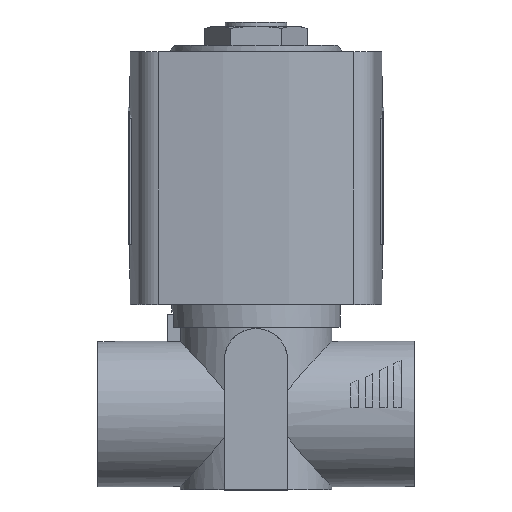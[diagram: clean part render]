
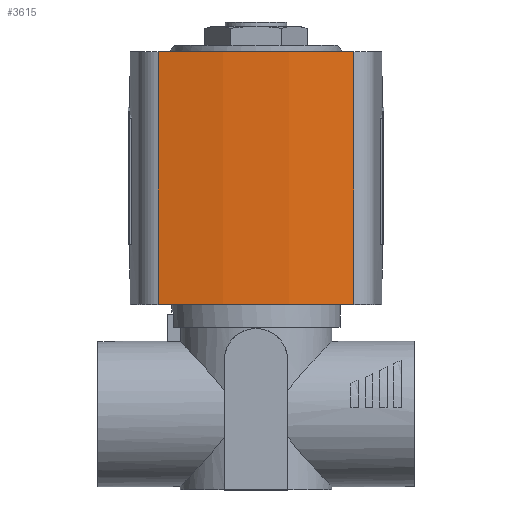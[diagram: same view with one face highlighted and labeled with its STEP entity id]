
A CAD part, top view. The second image highlights one B-rep face of the part: STEP entity #3615.
In plain terms, the highlighted cylindrical face has radius 80 mm (diameter 160 mm), a partial arc.
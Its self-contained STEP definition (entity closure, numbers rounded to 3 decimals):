
#231=CIRCLE('',#3845,80.);
#252=CIRCLE('',#3880,80.);
#658=ORIENTED_EDGE('',*,*,#1212,.T.);
#659=ORIENTED_EDGE('',*,*,#1213,.F.);
#660=ORIENTED_EDGE('',*,*,#1160,.F.);
#661=ORIENTED_EDGE('',*,*,#1211,.T.);
#1160=EDGE_CURVE('',#1471,#1472,#231,.T.);
#1211=EDGE_CURVE('',#1471,#1515,#1696,.T.);
#1212=EDGE_CURVE('',#1515,#1516,#252,.T.);
#1213=EDGE_CURVE('',#1472,#1516,#1697,.T.);
#1471=VERTEX_POINT('',#5168);
#1472=VERTEX_POINT('',#5169);
#1515=VERTEX_POINT('',#5267);
#1516=VERTEX_POINT('',#5271);
#1696=LINE('',#5268,#1915);
#1697=LINE('',#5272,#1916);
#1915=VECTOR('',#4436,1000.);
#1916=VECTOR('',#4441,1000.);
#2126=EDGE_LOOP('',(#658,#659,#660,#661));
#2326=FACE_BOUND('',#2126,.T.);
#2438=CYLINDRICAL_SURFACE('',#3879,80.);
#3615=ADVANCED_FACE('',(#2326),#2438,.T.);
#3845=AXIS2_PLACEMENT_3D('',#5167,#4346,#4347);
#3879=AXIS2_PLACEMENT_3D('',#5269,#4437,#4438);
#3880=AXIS2_PLACEMENT_3D('',#5270,#4439,#4440);
#4346=DIRECTION('',(0.,1.,0.));
#4347=DIRECTION('',(1.,0.,0.));
#4436=DIRECTION('',(0.,-1.,0.));
#4437=DIRECTION('',(0.,-1.,0.));
#4438=DIRECTION('',(0.,0.,-1.));
#4439=DIRECTION('',(0.,1.,0.));
#4440=DIRECTION('',(1.,0.,0.));
#4441=DIRECTION('',(0.,-1.,0.));
#5167=CARTESIAN_POINT('',(-56.5,14.,0.));
#5168=CARTESIAN_POINT('',(21.99,14.,15.472));
#5169=CARTESIAN_POINT('',(21.99,14.,-15.472));
#5267=CARTESIAN_POINT('',(21.99,-26.,15.472));
#5268=CARTESIAN_POINT('',(21.99,14.,15.472));
#5269=CARTESIAN_POINT('',(-56.5,14.,0.));
#5270=CARTESIAN_POINT('',(-56.5,-26.,0.));
#5271=CARTESIAN_POINT('',(21.99,-26.,-15.472));
#5272=CARTESIAN_POINT('',(21.99,14.,-15.472));
